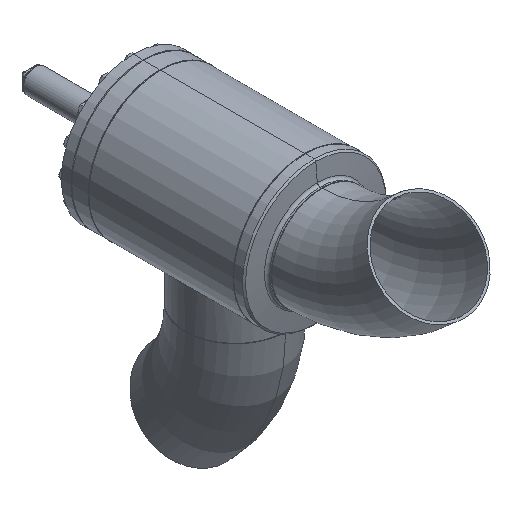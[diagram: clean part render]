
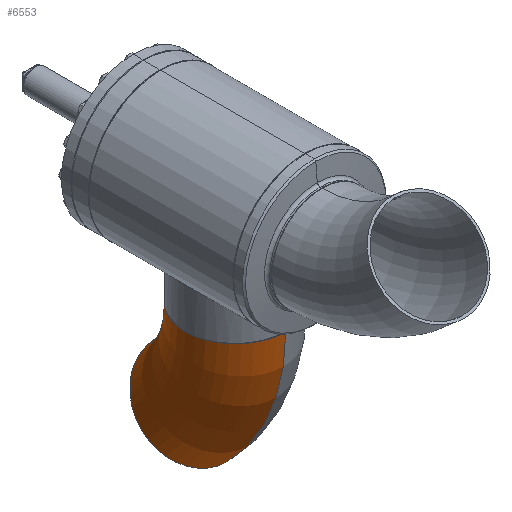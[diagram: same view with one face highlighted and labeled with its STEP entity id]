
A CAD part, isometric view. The second image highlights one B-rep face of the part: STEP entity #6553.
In plain terms, the highlighted toroidal (fillet/blend) face has major radius 533 mm and minor radius 177.8 mm.
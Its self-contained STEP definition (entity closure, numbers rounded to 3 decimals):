
#394 = VERTEX_POINT ( 'NONE', #14145 ) ;
#525 = VERTEX_POINT ( 'NONE', #14324 ) ;
#17127 = EDGE_CURVE ( 'NONE', #525, #394, #9434, .T. ) ;
#911 = CIRCLE ( 'NONE', #912, 177.8 ) ;
#912 = AXIS2_PLACEMENT_3D ( 'NONE', #913, #914, #915 ) ;
#913 = CARTESIAN_POINT ( 'NONE',  ( 0., 0., 0. ) ) ;
#914 = DIRECTION ( 'NONE',  ( 1., 0., 0. ) ) ;
#915 = DIRECTION ( 'NONE',  ( 0., 0., -1. ) ) ;
#17608 = CARTESIAN_POINT ( 'NONE',  ( 0., 177.8, 0. ) ) ;
#1726 = ORIENTED_EDGE ( 'NONE', *, *, #8489, .T. ) ;
#18242 = CIRCLE ( 'NONE', #18243, 355.2 ) ;
#18243 = AXIS2_PLACEMENT_3D ( 'NONE', #18244, #18245, #18246 ) ;
#18244 = CARTESIAN_POINT ( 'NONE',  ( 0., -533., 0. ) ) ;
#18245 = DIRECTION ( 'NONE',  ( 0., 0., 1. ) ) ;
#18246 = DIRECTION ( 'NONE',  ( 1., 0., 0. ) ) ;
#2253 = ORIENTED_EDGE ( 'NONE', *, *, #11124, .F. ) ;
#2879 = VERTEX_POINT ( 'NONE', #19424 ) ;
#19424 = CARTESIAN_POINT ( 'NONE',  ( 0., -177.8, 0. ) ) ;
#6553 = ADVANCED_FACE ( 'NONE', ( #9085 ), #9086, .T. ) ;
#7701 = EDGE_LOOP ( 'NONE', ( #14925, #1726, #13463, #2253 ) ) ;
#8489 = EDGE_CURVE ( 'NONE', #525, #10447, #11096, .T. ) ;
#9085 = FACE_OUTER_BOUND ( 'NONE', #7701, .T. ) ;
#9086 = TOROIDAL_SURFACE ( 'NONE', #9087, 533., 177.8 ) ;
#9087 = AXIS2_PLACEMENT_3D ( 'NONE', #9088, #9089, #9090 ) ;
#9088 = CARTESIAN_POINT ( 'NONE',  ( 0., -533., 0. ) ) ;
#9089 = DIRECTION ( 'NONE',  ( 0., 0., 1. ) ) ;
#9090 = DIRECTION ( 'NONE',  ( 1., 0., 0. ) ) ;
#9434 = CIRCLE ( 'NONE', #9435, 177.8 ) ;
#9435 = AXIS2_PLACEMENT_3D ( 'NONE', #9436, #9437, #9438 ) ;
#9436 = CARTESIAN_POINT ( 'NONE',  ( 376.888, -156.112, 0. ) ) ;
#9437 = DIRECTION ( 'NONE',  ( 0.707, -0.707, 0. ) ) ;
#9438 = DIRECTION ( 'NONE',  ( 0., 0., -1. ) ) ;
#10447 = VERTEX_POINT ( 'NONE', #17608 ) ;
#11096 = CIRCLE ( 'NONE', #11097, 710.8 ) ;
#11097 = AXIS2_PLACEMENT_3D ( 'NONE', #11098, #11099, #11100 ) ;
#11098 = CARTESIAN_POINT ( 'NONE',  ( 0., -533., 0. ) ) ;
#11099 = DIRECTION ( 'NONE',  ( 0., 0., 1. ) ) ;
#11100 = DIRECTION ( 'NONE',  ( 1., 0., 0. ) ) ;
#11124 = EDGE_CURVE ( 'NONE', #394, #2879, #18242, .T. ) ;
#13171 = EDGE_CURVE ( 'NONE', #10447, #2879, #911, .T. ) ;
#13463 = ORIENTED_EDGE ( 'NONE', *, *, #13171, .T. ) ;
#14145 = CARTESIAN_POINT ( 'NONE',  ( 251.164, -281.836, 0. ) ) ;
#14324 = CARTESIAN_POINT ( 'NONE',  ( 502.612, -30.388, 0. ) ) ;
#14925 = ORIENTED_EDGE ( 'NONE', *, *, #17127, .F. ) ;
